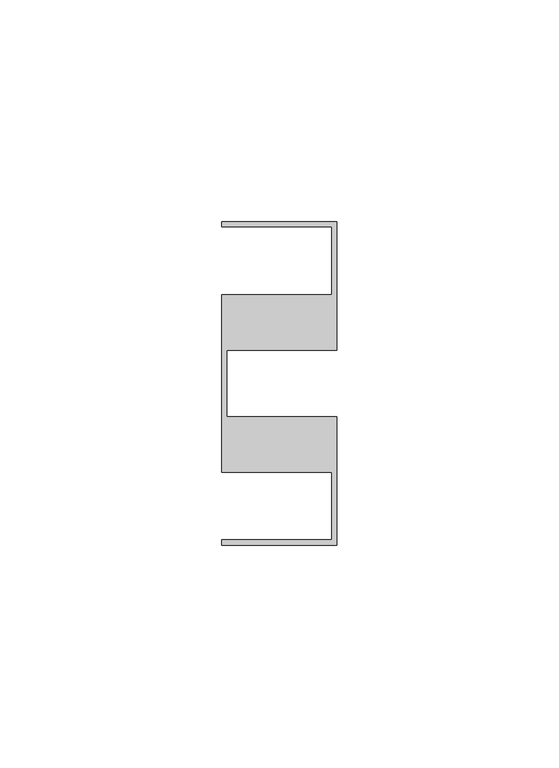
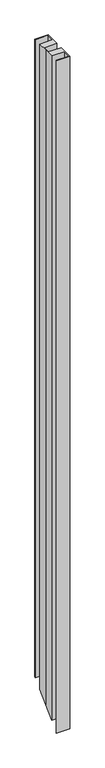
"""IFC4 building model written with IfcOpenShell, lengths in millimetres: member geometry, Прямоугольный импост : 10-AMG-2-Профиль 26Х73 Верх П."""

from ifc_helpers import new_model, si_unit, origin, place, context, project, spatial, faceted_brep, source, transform, mapped, element, save


def member_d40cb624(model_context):
    return source(origin(), model_context, "Body", "Brep", [
        faceted_brep([(-26.0, -36.5, 0.0), (0.0, -36.5, 0.0), (0.0, -7.5116043, 0.0), (-24.8, -7.5116043, 0.0), (-24.8, 0.0, 0.0), (-24.8, 7.5116043, 0.0), (0.0, 7.5116043, 0.0), (0.0, 36.5, 0.0), (-26.0, 36.5, 0.0), (-26.0, 35.3116043, 0.0), (-1.2, 35.3116043, 0.0), (-1.2, 20.0, 0.0), (-26.0, 20.0, 0.0), (-26.0, 0.0, 0.0), (-26.0, -20.0, 0.0), (-1.2, -20.0, 0.0), (-1.2, -35.3, 0.0), (-26.0, -35.3, 0.0), (-26.0, -36.5, -1396.1001349), (0.0, -36.5, -1396.1001349), (0.0, -7.5116043, -1367.1117392), (-24.8, -7.5116043, -1367.1117392), (-24.8, 0.0, -1359.6001349), (-24.8, 7.5116043, -1352.0885305), (0.0, 7.5116043, -1352.0885305), (0.0, 36.5, -1323.1001349), (-26.0, 36.5, -1323.1001349), (-26.0, 35.3116043, -1324.2885305), (-1.2, 35.3116043, -1324.2885305), (-1.2, 20.0, -1339.6001349), (-26.0, 20.0, -1339.6001349), (-26.0, 0.0, -1359.6001349), (-26.0, -20.0, -1379.6001349), (-1.2, -20.0, -1379.6001349), (-1.2, -35.3, -1394.9001349), (-26.0, -35.3, -1394.9001349)], [[[0, 1, 2, 3, 4, 5, 6, 7, 8, 9, 10, 11, 12, 13, 14, 15, 16, 17]], [[1, 0, 18, 19]], [[2, 1, 19, 20]], [[3, 2, 20, 21]], [[4, 3, 21, 22]], [[5, 4, 22, 23]], [[6, 5, 23, 24]], [[7, 6, 24, 25]], [[8, 7, 25, 26]], [[9, 8, 26, 27]], [[10, 9, 27, 28]], [[11, 10, 28, 29]], [[12, 11, 29, 30]], [[13, 12, 30, 31]], [[14, 13, 31, 32]], [[15, 14, 32, 33]], [[16, 15, 33, 34]], [[17, 16, 34, 35]], [[0, 17, 35, 18]], [[18, 35, 34, 33, 32, 31, 30, 29, 28, 27, 26, 25, 24, 23, 22, 21, 20, 19]]]),
    ])


if __name__ == "__main__":
    model = new_model("IFC4")
    model_context = context("Model", 3, world=origin())
    ifc_project = project(units=[si_unit("LENGTHUNIT", "METRE", prefix="MILLI")], contexts=[model_context])
    site = spatial("IfcSite", under=ifc_project)
    building = spatial("IfcBuilding", under=site)
    placement = place(None, origin())
    member_shape = member_d40cb624(model_context)
    element("IfcMember", 1, ObjectType="Прямоугольный импост : 10-AMG-2-Профиль 26Х73 Верх П", at=placement, inside=building, context=model_context, shape_type="MappedRepresentation", body=[
        mapped(member_shape, transform((0.0, 0.0, 0.0), x_axis=(1.0, 0.0, 0.0), y_axis=(0.0, 1.0, 0.0), z_axis=(0.0, 0.0, 1.0))),
    ])
    save(model, "model.ifc")
